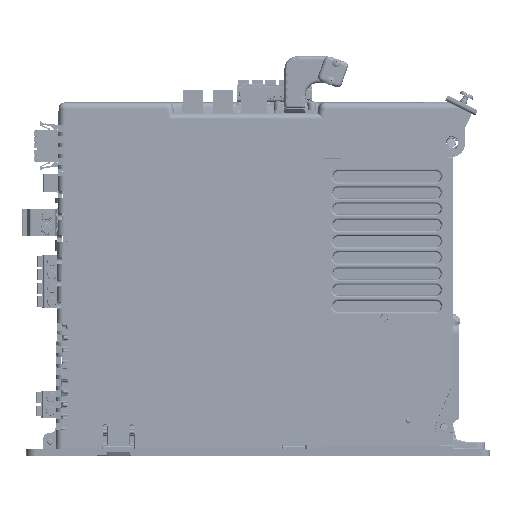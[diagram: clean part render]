
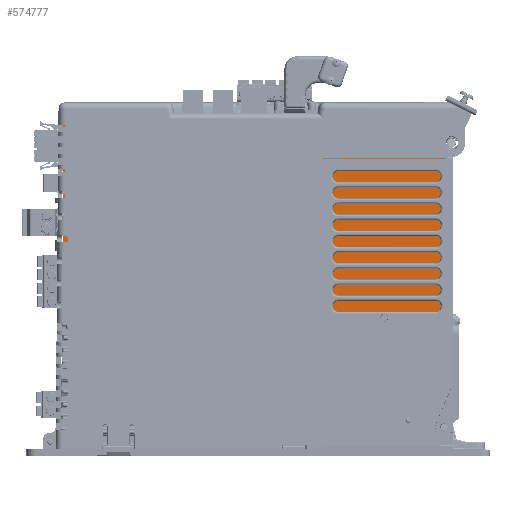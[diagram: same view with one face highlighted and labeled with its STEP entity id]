
A CAD part, left-side view. The second image highlights one B-rep face of the part: STEP entity #574777.
In plain terms, the highlighted planar face has unit normal (-1, 0, 0).
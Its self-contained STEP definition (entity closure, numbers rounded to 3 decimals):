
#574587=DIRECTION('',(0.,1.,0.));
#574588=VECTOR('',#574587,140.241);
#574589=CARTESIAN_POINT('',(-1.6,-165.851,0.));
#574590=LINE('',#574589,#574588);
#574591=DIRECTION('',(0.,0.,1.));
#574592=VECTOR('',#574591,189.451);
#574593=CARTESIAN_POINT('',(-1.6,-165.851,-189.451));
#574594=LINE('',#574593,#574592);
#574595=DIRECTION('',(0.,-1.,0.));
#574596=VECTOR('',#574595,216.008);
#574597=CARTESIAN_POINT('',(-1.6,50.157,-189.451));
#574598=LINE('',#574597,#574596);
#574599=DIRECTION('',(0.,0.,-1.));
#574600=VECTOR('',#574599,160.964);
#574601=CARTESIAN_POINT('',(-1.6,50.157,-28.488));
#574602=LINE('',#574601,#574600);
#574603=DIRECTION('',(0.,0.312,-0.95));
#574604=VECTOR('',#574603,19.772);
#574605=CARTESIAN_POINT('',(-1.6,43.997,-9.7));
#574606=LINE('',#574605,#574604);
#574607=DIRECTION('',(0.,1.,0.));
#574608=VECTOR('',#574607,69.607);
#574609=CARTESIAN_POINT('',(-1.6,-25.61,-9.7));
#574610=LINE('',#574609,#574608);
#574611=DIRECTION('',(0.,0.,-1.));
#574612=VECTOR('',#574611,9.7);
#574613=CARTESIAN_POINT('',(-1.6,-25.61,0.));
#574614=LINE('',#574613,#574612);
#574629=CARTESIAN_POINT('',(-1.6,-165.851,0.));
#574630=CARTESIAN_POINT('',(-1.6,-25.61,0.));
#574631=VERTEX_POINT('',#574629);
#574632=VERTEX_POINT('',#574630);
#574633=CARTESIAN_POINT('',(-1.6,-25.61,-9.7));
#574634=VERTEX_POINT('',#574633);
#574635=CARTESIAN_POINT('',(-1.6,43.997,-9.7));
#574636=VERTEX_POINT('',#574635);
#574637=CARTESIAN_POINT('',(-1.6,50.157,-28.488));
#574638=VERTEX_POINT('',#574637);
#574639=CARTESIAN_POINT('',(-1.6,50.157,-189.451));
#574640=VERTEX_POINT('',#574639);
#574641=CARTESIAN_POINT('',(-1.6,-165.851,-189.451));
#574642=VERTEX_POINT('',#574641);
#574763=CARTESIAN_POINT('',(-1.6,0.,0.));
#574764=DIRECTION('',(-1.,0.,0.));
#574765=DIRECTION('',(0.,0.,1.));
#574766=AXIS2_PLACEMENT_3D('',#574763,#574764,#574765);
#574767=PLANE('',#574766);
#574768=ORIENTED_EDGE('',*,*,#574673,.F.);
#574769=ORIENTED_EDGE('',*,*,#574688,.F.);
#574770=ORIENTED_EDGE('',*,*,#574702,.F.);
#574771=ORIENTED_EDGE('',*,*,#574716,.F.);
#574772=ORIENTED_EDGE('',*,*,#574730,.F.);
#574773=ORIENTED_EDGE('',*,*,#574744,.F.);
#574774=ORIENTED_EDGE('',*,*,#574757,.F.);
#574775=EDGE_LOOP('',(#574768,#574769,#574770,#574771,#574772,#574773,#574774));
#574776=FACE_OUTER_BOUND('',#574775,.F.);
#574777=ADVANCED_FACE('',(#574776),#574767,.T.);
#574673=EDGE_CURVE('',#574631,#574632,#574590,.T.);
#574688=EDGE_CURVE('',#574642,#574631,#574594,.T.);
#574702=EDGE_CURVE('',#574640,#574642,#574598,.T.);
#574716=EDGE_CURVE('',#574638,#574640,#574602,.T.);
#574730=EDGE_CURVE('',#574636,#574638,#574606,.T.);
#574744=EDGE_CURVE('',#574634,#574636,#574610,.T.);
#574757=EDGE_CURVE('',#574632,#574634,#574614,.T.);
